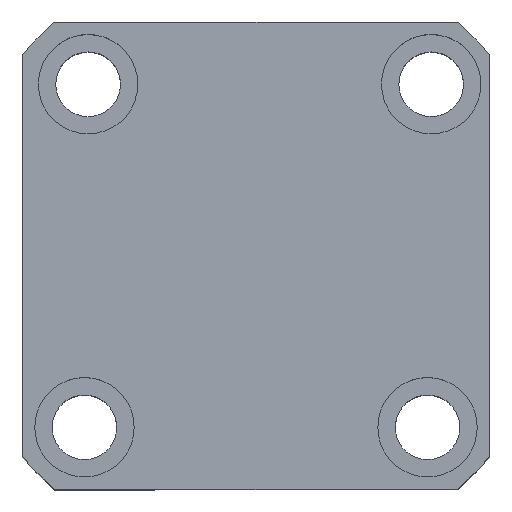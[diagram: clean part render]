
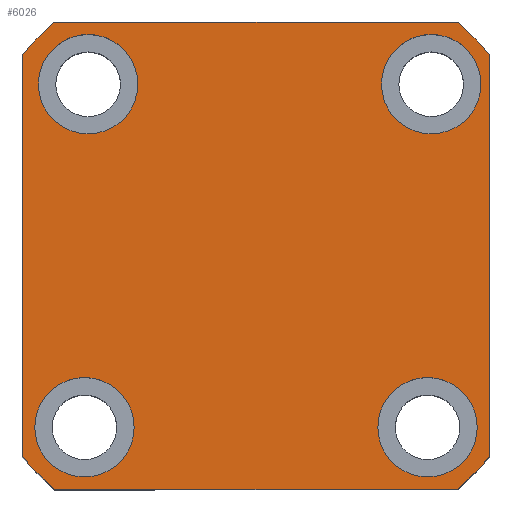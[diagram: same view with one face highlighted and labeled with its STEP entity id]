
A CAD part, top view. The second image highlights one B-rep face of the part: STEP entity #6026.
In plain terms, the highlighted planar face has unit normal (0, 0, 1) as drawn and (0, 0, -1) by its records, which use the part's own axes.
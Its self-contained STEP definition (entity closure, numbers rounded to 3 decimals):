
#93 = AXIS2_PLACEMENT_3D ( 'NONE', #15747, #7544, #17133 ) ;
#136 = ORIENTED_EDGE ( 'NONE', *, *, #4686, .F. ) ;
#170 = ORIENTED_EDGE ( 'NONE', *, *, #12541, .F. ) ;
#735 = CARTESIAN_POINT ( 'NONE',  ( 45.23, -34.5, 0. ) ) ;
#911 = EDGE_LOOP ( 'NONE', ( #14735, #1126 ) ) ;
#934 = CARTESIAN_POINT ( 'NONE',  ( 47., 40.435, 0. ) ) ;
#1105 = VERTEX_POINT ( 'NONE', #934 ) ;
#1126 = ORIENTED_EDGE ( 'NONE', *, *, #1834, .F. ) ;
#1259 = CARTESIAN_POINT ( 'NONE',  ( 35.23, -34.5, 0. ) ) ;
#1362 = EDGE_CURVE ( 'NONE', #7710, #7005, #17398, .T. ) ;
#1483 = ORIENTED_EDGE ( 'NONE', *, *, #11644, .F. ) ;
#1700 = CARTESIAN_POINT ( 'NONE',  ( 0., 0., 0. ) ) ;
#1834 = EDGE_CURVE ( 'NONE', #1866, #5976, #8860, .T. ) ;
#1866 = VERTEX_POINT ( 'NONE', #14222 ) ;
#2063 = ORIENTED_EDGE ( 'NONE', *, *, #7193, .F. ) ;
#2204 = VERTEX_POINT ( 'NONE', #13087 ) ;
#2210 = CIRCLE ( 'NONE', #13554, 10. ) ;
#2276 = CARTESIAN_POINT ( 'NONE',  ( -40.435, 47., 0. ) ) ;
#2647 = DIRECTION ( 'NONE',  ( -1., 0., 0. ) ) ;
#2876 = CIRCLE ( 'NONE', #8241, 10. ) ;
#2955 = EDGE_CURVE ( 'NONE', #11005, #5014, #7305, .T. ) ;
#3083 = DIRECTION ( 'NONE',  ( 1., 0., 0. ) ) ;
#3388 = ORIENTED_EDGE ( 'NONE', *, *, #4933, .F. ) ;
#3410 = DIRECTION ( 'NONE',  ( 0., -1., 0. ) ) ;
#3468 = CARTESIAN_POINT ( 'NONE',  ( 0., 0., 0. ) ) ;
#3532 = FACE_BOUND ( 'NONE', #5005, .T. ) ;
#3590 = VERTEX_POINT ( 'NONE', #9686 ) ;
#3799 = DIRECTION ( 'NONE',  ( 0., 0., -1. ) ) ;
#3811 = CARTESIAN_POINT ( 'NONE',  ( 0., 0., 0. ) ) ;
#3931 = FACE_BOUND ( 'NONE', #8246, .T. ) ;
#3951 = VERTEX_POINT ( 'NONE', #15737 ) ;
#3961 = CARTESIAN_POINT ( 'NONE',  ( -23.77, -34.5, 0. ) ) ;
#3982 = DIRECTION ( 'NONE',  ( 0., 0., -1. ) ) ;
#4234 = AXIS2_PLACEMENT_3D ( 'NONE', #3468, #13100, #4854 ) ;
#4265 = CARTESIAN_POINT ( 'NONE',  ( 47., 47., 0. ) ) ;
#4342 = CIRCLE ( 'NONE', #4234, 62. ) ;
#4386 = VERTEX_POINT ( 'NONE', #16564 ) ;
#4429 = CARTESIAN_POINT ( 'NONE',  ( 25.23, -34.5, 0. ) ) ;
#4540 = CIRCLE ( 'NONE', #5630, 62. ) ;
#4576 = VERTEX_POINT ( 'NONE', #4429 ) ;
#4686 = EDGE_CURVE ( 'NONE', #4576, #10100, #16948, .T. ) ;
#4690 = CARTESIAN_POINT ( 'NONE',  ( 44.5, 34.5, 0. ) ) ;
#4854 = DIRECTION ( 'NONE',  ( 1., 0., 0. ) ) ;
#4933 = EDGE_CURVE ( 'NONE', #3951, #2204, #14700, .T. ) ;
#5005 = EDGE_LOOP ( 'NONE', ( #2063, #6033 ) ) ;
#5014 = VERTEX_POINT ( 'NONE', #2276 ) ;
#5098 = CARTESIAN_POINT ( 'NONE',  ( 0., 0., 0. ) ) ;
#5153 = AXIS2_PLACEMENT_3D ( 'NONE', #15837, #7636, #17218 ) ;
#5204 = DIRECTION ( 'NONE',  ( 1., 0., 0. ) ) ;
#5265 = EDGE_CURVE ( 'NONE', #7005, #10123, #17085, .T. ) ;
#5388 = CIRCLE ( 'NONE', #93, 10. ) ;
#5406 = CARTESIAN_POINT ( 'NONE',  ( 0., 0., 0. ) ) ;
#5407 = EDGE_LOOP ( 'NONE', ( #9561, #16382, #11443, #15344, #7397, #3388, #170, #11767 ) ) ;
#5630 = AXIS2_PLACEMENT_3D ( 'NONE', #5098, #14707, #6484 ) ;
#5649 = DIRECTION ( 'NONE',  ( 0., 1., 0. ) ) ;
#5897 = VECTOR ( 'NONE', #5649, 1000. ) ;
#5975 = ORIENTED_EDGE ( 'NONE', *, *, #12542, .F. ) ;
#5976 = VERTEX_POINT ( 'NONE', #16214 ) ;
#6026 = ADVANCED_FACE ( 'NONE', ( #7197, #3931, #14064, #3532, #10462 ), #15021, .F. ) ;
#6033 = ORIENTED_EDGE ( 'NONE', *, *, #15149, .F. ) ;
#6292 = CARTESIAN_POINT ( 'NONE',  ( -47., 47., 0. ) ) ;
#6303 = EDGE_CURVE ( 'NONE', #10123, #1105, #6752, .T. ) ;
#6484 = DIRECTION ( 'NONE',  ( 1., 0., 0. ) ) ;
#6752 = LINE ( 'NONE', #4265, #5897 ) ;
#6993 = CARTESIAN_POINT ( 'NONE',  ( -47., 47., 0. ) ) ;
#7005 = VERTEX_POINT ( 'NONE', #9462 ) ;
#7052 = DIRECTION ( 'NONE',  ( -1., 0., 0. ) ) ;
#7090 = CARTESIAN_POINT ( 'NONE',  ( 34.5, 34.5, 0. ) ) ;
#7193 = EDGE_CURVE ( 'NONE', #3590, #9220, #2876, .T. ) ;
#7197 = FACE_BOUND ( 'NONE', #16817, .T. ) ;
#7305 = LINE ( 'NONE', #6993, #14171 ) ;
#7397 = ORIENTED_EDGE ( 'NONE', *, *, #15371, .F. ) ;
#7401 = DIRECTION ( 'NONE',  ( 0., 0., -1. ) ) ;
#7435 = VECTOR ( 'NONE', #3410, 1000. ) ;
#7477 = AXIS2_PLACEMENT_3D ( 'NONE', #1700, #11365, #3083 ) ;
#7544 = DIRECTION ( 'NONE',  ( 0., 0., -1. ) ) ;
#7636 = DIRECTION ( 'NONE',  ( 0., 0., -1. ) ) ;
#7710 = VERTEX_POINT ( 'NONE', #11407 ) ;
#8198 = DIRECTION ( 'NONE',  ( 1., 0., 0. ) ) ;
#8241 = AXIS2_PLACEMENT_3D ( 'NONE', #7090, #16688, #8505 ) ;
#8246 = EDGE_LOOP ( 'NONE', ( #12175, #5975 ) ) ;
#8402 = VERTEX_POINT ( 'NONE', #3961 ) ;
#8505 = DIRECTION ( 'NONE',  ( -1., 0., 0. ) ) ;
#8706 = CIRCLE ( 'NONE', #16906, 10. ) ;
#8860 = CIRCLE ( 'NONE', #17048, 10. ) ;
#8992 = EDGE_CURVE ( 'NONE', #4386, #8402, #12563, .T. ) ;
#9220 = VERTEX_POINT ( 'NONE', #4690 ) ;
#9462 = CARTESIAN_POINT ( 'NONE',  ( 40.435, -47., 0. ) ) ;
#9561 = ORIENTED_EDGE ( 'NONE', *, *, #9635, .F. ) ;
#9635 = EDGE_CURVE ( 'NONE', #1105, #11005, #9989, .T. ) ;
#9686 = CARTESIAN_POINT ( 'NONE',  ( 24.5, 34.5, 0. ) ) ;
#9989 = CIRCLE ( 'NONE', #7477, 62. ) ;
#10100 = VERTEX_POINT ( 'NONE', #735 ) ;
#10123 = VERTEX_POINT ( 'NONE', #10461 ) ;
#10461 = CARTESIAN_POINT ( 'NONE',  ( 47., -40.435, 0. ) ) ;
#10462 = FACE_OUTER_BOUND ( 'NONE', #5407, .T. ) ;
#10533 = CARTESIAN_POINT ( 'NONE',  ( 40.435, 47., 0. ) ) ;
#10929 = DIRECTION ( 'NONE',  ( 0., 0., -1. ) ) ;
#11005 = VERTEX_POINT ( 'NONE', #10533 ) ;
#11365 = DIRECTION ( 'NONE',  ( 0., 0., 1. ) ) ;
#11407 = CARTESIAN_POINT ( 'NONE',  ( -40.435, -47., 0. ) ) ;
#11443 = ORIENTED_EDGE ( 'NONE', *, *, #5265, .F. ) ;
#11465 = CARTESIAN_POINT ( 'NONE',  ( -47., -47., 0. ) ) ;
#11541 = AXIS2_PLACEMENT_3D ( 'NONE', #12081, #3799, #13434 ) ;
#11644 = EDGE_CURVE ( 'NONE', #10100, #4576, #8706, .T. ) ;
#11706 = CIRCLE ( 'NONE', #5153, 10. ) ;
#11767 = ORIENTED_EDGE ( 'NONE', *, *, #2955, .F. ) ;
#12081 = CARTESIAN_POINT ( 'NONE',  ( -33.77, -34.5, 0. ) ) ;
#12175 = ORIENTED_EDGE ( 'NONE', *, *, #8992, .F. ) ;
#12261 = CARTESIAN_POINT ( 'NONE',  ( -34.5, 34.5, 0. ) ) ;
#12541 = EDGE_CURVE ( 'NONE', #5014, #3951, #4342, .T. ) ;
#12542 = EDGE_CURVE ( 'NONE', #8402, #4386, #11706, .T. ) ;
#12563 = CIRCLE ( 'NONE', #11541, 10. ) ;
#12627 = AXIS2_PLACEMENT_3D ( 'NONE', #5406, #16399, #8198 ) ;
#12761 = DIRECTION ( 'NONE',  ( 1., 0., 0. ) ) ;
#12965 = AXIS2_PLACEMENT_3D ( 'NONE', #3811, #13448, #5204 ) ;
#13043 = DIRECTION ( 'NONE',  ( -1., 0., 0. ) ) ;
#13087 = CARTESIAN_POINT ( 'NONE',  ( -47., -40.435, 0. ) ) ;
#13097 = DIRECTION ( 'NONE',  ( 0., 0., -1. ) ) ;
#13100 = DIRECTION ( 'NONE',  ( 0., 0., 1. ) ) ;
#13150 = CARTESIAN_POINT ( 'NONE',  ( -34.5, 34.5, 0. ) ) ;
#13229 = EDGE_CURVE ( 'NONE', #5976, #1866, #2210, .T. ) ;
#13434 = DIRECTION ( 'NONE',  ( -1., 0., 0. ) ) ;
#13448 = DIRECTION ( 'NONE',  ( 0., 0., 1. ) ) ;
#13554 = AXIS2_PLACEMENT_3D ( 'NONE', #12261, #3982, #13617 ) ;
#13617 = DIRECTION ( 'NONE',  ( -1., 0., 0. ) ) ;
#13762 = VECTOR ( 'NONE', #12761, 1000. ) ;
#14064 = FACE_BOUND ( 'NONE', #911, .T. ) ;
#14171 = VECTOR ( 'NONE', #7052, 1000. ) ;
#14204 = AXIS2_PLACEMENT_3D ( 'NONE', #15601, #7401, #16989 ) ;
#14222 = CARTESIAN_POINT ( 'NONE',  ( -24.5, 34.5, 0. ) ) ;
#14700 = LINE ( 'NONE', #6292, #7435 ) ;
#14707 = DIRECTION ( 'NONE',  ( 0., 0., 1. ) ) ;
#14735 = ORIENTED_EDGE ( 'NONE', *, *, #13229, .F. ) ;
#15021 = PLANE ( 'NONE',  #12627 ) ;
#15149 = EDGE_CURVE ( 'NONE', #9220, #3590, #5388, .T. ) ;
#15344 = ORIENTED_EDGE ( 'NONE', *, *, #1362, .F. ) ;
#15371 = EDGE_CURVE ( 'NONE', #2204, #7710, #4540, .T. ) ;
#15601 = CARTESIAN_POINT ( 'NONE',  ( 35.23, -34.5, 0. ) ) ;
#15737 = CARTESIAN_POINT ( 'NONE',  ( -47., 40.435, 0. ) ) ;
#15747 = CARTESIAN_POINT ( 'NONE',  ( 34.5, 34.5, 0. ) ) ;
#15837 = CARTESIAN_POINT ( 'NONE',  ( -33.77, -34.5, 0. ) ) ;
#16214 = CARTESIAN_POINT ( 'NONE',  ( -44.5, 34.5, 0. ) ) ;
#16382 = ORIENTED_EDGE ( 'NONE', *, *, #6303, .F. ) ;
#16399 = DIRECTION ( 'NONE',  ( 0., 0., 1. ) ) ;
#16564 = CARTESIAN_POINT ( 'NONE',  ( -43.77, -34.5, 0. ) ) ;
#16688 = DIRECTION ( 'NONE',  ( 0., 0., -1. ) ) ;
#16817 = EDGE_LOOP ( 'NONE', ( #136, #1483 ) ) ;
#16906 = AXIS2_PLACEMENT_3D ( 'NONE', #1259, #10929, #2647 ) ;
#16948 = CIRCLE ( 'NONE', #14204, 10. ) ;
#16989 = DIRECTION ( 'NONE',  ( -1., 0., 0. ) ) ;
#17048 = AXIS2_PLACEMENT_3D ( 'NONE', #13150, #13097, #13043 ) ;
#17085 = CIRCLE ( 'NONE', #12965, 62. ) ;
#17133 = DIRECTION ( 'NONE',  ( -1., 0., 0. ) ) ;
#17218 = DIRECTION ( 'NONE',  ( -1., 0., 0. ) ) ;
#17398 = LINE ( 'NONE', #11465, #13762 ) ;
